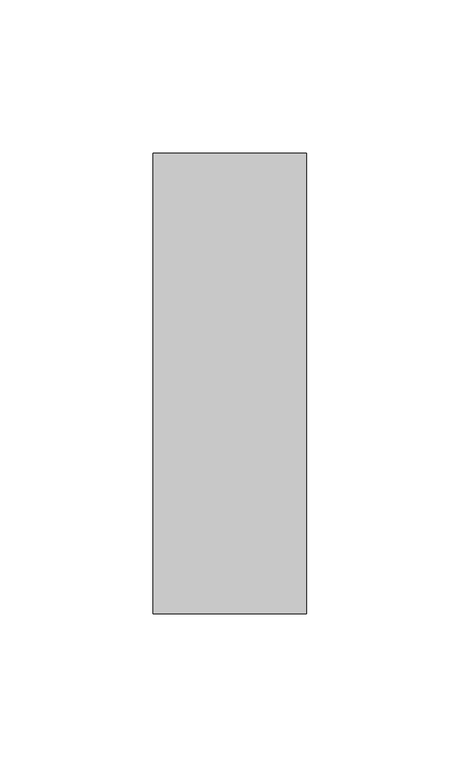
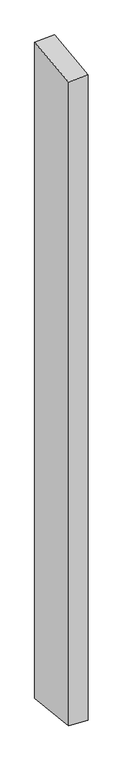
"""IFC4 building model written with IfcOpenShell, lengths in millimetres: member geometry, Прямоугольный импост : 50 x 150 мм."""

from ifc_helpers import new_model, si_unit, origin, place, context, project, spatial, faceted_brep, source, transform, mapped, element, save


def member_ae48f24b(model_context):
    return source(origin(), model_context, "Body", "Brep", [
        faceted_brep([(-25.0, 75.0, 6.4694477), (25.0, 75.0, 9.3190451), (25.0, 75.0, -1763.8424621), (-25.0, 75.0, -1760.8296293), (-25.0, -75.0, -9.3190451), (-25.0, -75.0, -1743.857324), (25.0, -75.0, -6.4694477), (25.0, -75.0, -1746.8701568)], [[[0, 1, 2, 3]], [[4, 0, 3, 5]], [[6, 4, 5, 7]], [[1, 6, 7, 2]], [[1, 0, 4, 6]], [[2, 7, 5, 3]]]),
    ])


if __name__ == "__main__":
    model = new_model("IFC4")
    model_context = context("Model", 3, world=origin())
    ifc_project = project(units=[si_unit("LENGTHUNIT", "METRE", prefix="MILLI")], contexts=[model_context])
    site = spatial("IfcSite", under=ifc_project)
    building = spatial("IfcBuilding", under=site)
    placement = place(None, origin())
    member_shape = member_ae48f24b(model_context)
    element("IfcMember", 1, ObjectType="Прямоугольный импост : 50 x 150 мм", at=placement, inside=building, context=model_context, shape_type="MappedRepresentation", body=[
        mapped(member_shape, transform((0.0, 0.0, 0.0), x_axis=(1.0, 0.0, 0.0), y_axis=(0.0, 1.0, 0.0), z_axis=(0.0, 0.0, 1.0))),
    ])
    save(model, "model.ifc")
